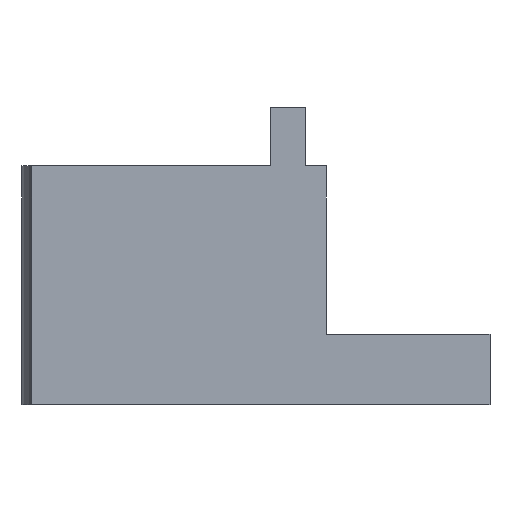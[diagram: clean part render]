
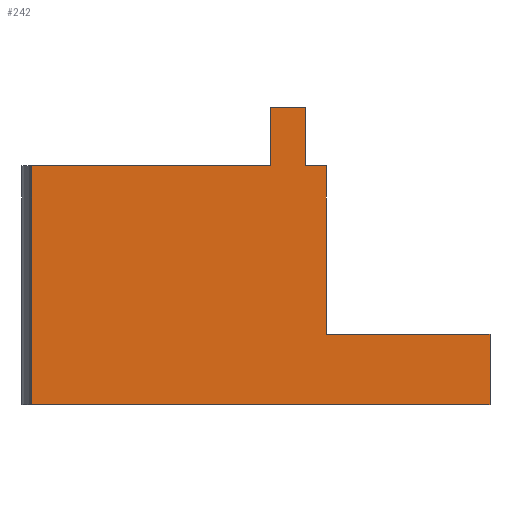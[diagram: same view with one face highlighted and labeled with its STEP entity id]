
A CAD part, front view. The second image highlights one B-rep face of the part: STEP entity #242.
In plain terms, the highlighted planar face has unit normal (0, -1, 0).
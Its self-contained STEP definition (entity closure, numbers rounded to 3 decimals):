
#22 = VERTEX_POINT('',#23);
#23 = CARTESIAN_POINT('',(0.417,0.,0.));
#32 = EDGE_CURVE('',#33,#22,#35,.T.);
#33 = VERTEX_POINT('',#34);
#34 = CARTESIAN_POINT('',(0.417,0.,10.2));
#35 = LINE('',#36,#37);
#36 = CARTESIAN_POINT('',(0.417,0.,10.2));
#37 = VECTOR('',#38,1.);
#38 = DIRECTION('',(0.,0.,-1.));
#82 = VERTEX_POINT('',#83);
#83 = CARTESIAN_POINT('',(20.,0.,0.));
#89 = EDGE_CURVE('',#82,#22,#90,.T.);
#90 = LINE('',#91,#92);
#91 = CARTESIAN_POINT('',(2.,0.,0.));
#92 = VECTOR('',#93,1.);
#93 = DIRECTION('',(-1.,0.,-0.));
#165 = EDGE_CURVE('',#166,#33,#168,.T.);
#166 = VERTEX_POINT('',#167);
#167 = CARTESIAN_POINT('',(10.6,0.,10.2));
#168 = LINE('',#169,#170);
#169 = CARTESIAN_POINT('',(2.,0.,10.2));
#170 = VECTOR('',#171,1.);
#171 = DIRECTION('',(-1.,0.,-0.));
#190 = VERTEX_POINT('',#191);
#191 = CARTESIAN_POINT('',(12.1,0.,10.2));
#197 = EDGE_CURVE('',#198,#190,#200,.T.);
#198 = VERTEX_POINT('',#199);
#199 = CARTESIAN_POINT('',(13.,0.,10.2));
#200 = LINE('',#201,#202);
#201 = CARTESIAN_POINT('',(2.,0.,10.2));
#202 = VECTOR('',#203,1.);
#203 = DIRECTION('',(-1.,0.,-0.));
#242 = ADVANCED_FACE('',(#243),#293,.T.);
#243 = FACE_BOUND('',#244,.T.);
#244 = EDGE_LOOP('',(#245,#246,#254,#262,#268,#269,#277,#285,#291,#292)
  );
#245 = ORIENTED_EDGE('',*,*,#89,.F.);
#246 = ORIENTED_EDGE('',*,*,#247,.F.);
#247 = EDGE_CURVE('',#248,#82,#250,.T.);
#248 = VERTEX_POINT('',#249);
#249 = CARTESIAN_POINT('',(20.,0.,3.));
#250 = LINE('',#251,#252);
#251 = CARTESIAN_POINT('',(20.,0.,13.2));
#252 = VECTOR('',#253,1.);
#253 = DIRECTION('',(0.,0.,-1.));
#254 = ORIENTED_EDGE('',*,*,#255,.T.);
#255 = EDGE_CURVE('',#248,#256,#258,.T.);
#256 = VERTEX_POINT('',#257);
#257 = CARTESIAN_POINT('',(13.,0.,3.));
#258 = LINE('',#259,#260);
#259 = CARTESIAN_POINT('',(2.,0.,3.));
#260 = VECTOR('',#261,1.);
#261 = DIRECTION('',(-1.,0.,-0.));
#262 = ORIENTED_EDGE('',*,*,#263,.F.);
#263 = EDGE_CURVE('',#198,#256,#264,.T.);
#264 = LINE('',#265,#266);
#265 = CARTESIAN_POINT('',(13.,0.,11.7));
#266 = VECTOR('',#267,1.);
#267 = DIRECTION('',(0.,0.,-1.));
#268 = ORIENTED_EDGE('',*,*,#197,.T.);
#269 = ORIENTED_EDGE('',*,*,#270,.F.);
#270 = EDGE_CURVE('',#271,#190,#273,.T.);
#271 = VERTEX_POINT('',#272);
#272 = CARTESIAN_POINT('',(12.1,0.,12.7));
#273 = LINE('',#274,#275);
#274 = CARTESIAN_POINT('',(12.1,0.,12.95));
#275 = VECTOR('',#276,1.);
#276 = DIRECTION('',(0.,0.,-1.));
#277 = ORIENTED_EDGE('',*,*,#278,.T.);
#278 = EDGE_CURVE('',#271,#279,#281,.T.);
#279 = VERTEX_POINT('',#280);
#280 = CARTESIAN_POINT('',(10.6,0.,12.7));
#281 = LINE('',#282,#283);
#282 = CARTESIAN_POINT('',(4.8,0.,12.7));
#283 = VECTOR('',#284,1.);
#284 = DIRECTION('',(-1.,0.,-0.));
#285 = ORIENTED_EDGE('',*,*,#286,.T.);
#286 = EDGE_CURVE('',#279,#166,#287,.T.);
#287 = LINE('',#288,#289);
#288 = CARTESIAN_POINT('',(10.6,0.,12.95));
#289 = VECTOR('',#290,1.);
#290 = DIRECTION('',(0.,0.,-1.));
#291 = ORIENTED_EDGE('',*,*,#165,.T.);
#292 = ORIENTED_EDGE('',*,*,#32,.T.);
#293 = PLANE('',#294);
#294 = AXIS2_PLACEMENT_3D('',#295,#296,#297);
#295 = CARTESIAN_POINT('',(-1.,0.,13.2));
#296 = DIRECTION('',(0.,-1.,0.));
#297 = DIRECTION('',(0.,0.,-1.));
